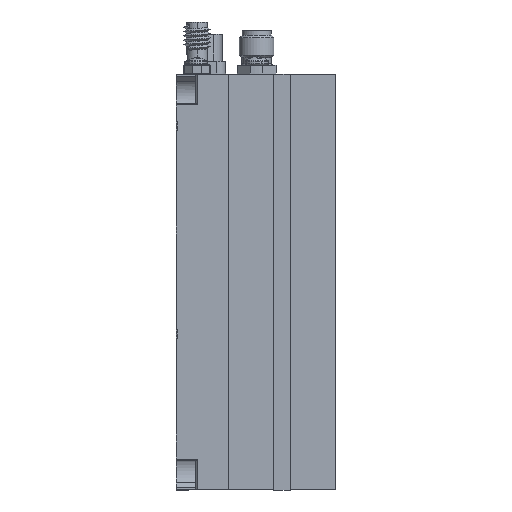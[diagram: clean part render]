
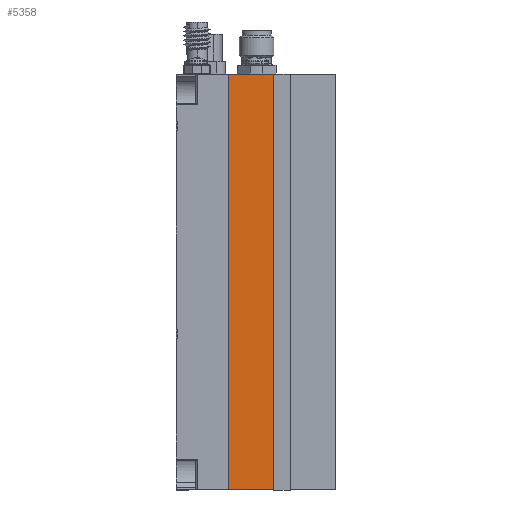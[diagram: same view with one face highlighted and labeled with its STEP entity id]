
A CAD part, left-side view. The second image highlights one B-rep face of the part: STEP entity #5358.
In plain terms, the highlighted planar face has unit normal (-1, 0, 0).
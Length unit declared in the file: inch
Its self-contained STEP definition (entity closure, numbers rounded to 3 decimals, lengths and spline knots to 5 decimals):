
#1246 = EDGE_CURVE ( 'NONE', #7911, #7916, #8816, .T. ) ;
#1249 = EDGE_CURVE ( 'NONE', #7916, #7805, #8826, .T. ) ;
#1268 = EDGE_CURVE ( 'NONE', #8040, #7805, #8857, .T. ) ;
#1272 = EDGE_CURVE ( 'NONE', #7911, #8040, #8862, .T. ) ;
#3343 = EDGE_LOOP ( 'NONE', ( #16556, #16558, #16562, #16561 ) ) ;
#5358 = ADVANCED_FACE ( 'NONE', ( #14880 ), #14148, .F. ) ;
#7805 = VERTEX_POINT ( 'NONE', #23440 ) ;
#7911 = VERTEX_POINT ( 'NONE', #24753 ) ;
#7916 = VERTEX_POINT ( 'NONE', #24758 ) ;
#8040 = VERTEX_POINT ( 'NONE', #24882 ) ;
#8816 = LINE ( 'NONE', #10047, #8823 ) ;
#8823 = VECTOR ( 'NONE', #10059, 39.37008 ) ;
#8826 = LINE ( 'NONE', #10060, #8828 ) ;
#8828 = VECTOR ( 'NONE', #10057, 39.37008 ) ;
#8857 = LINE ( 'NONE', #10107, #8860 ) ;
#8860 = VECTOR ( 'NONE', #10108, 39.37008 ) ;
#8862 = LINE ( 'NONE', #10117, #8863 ) ;
#8863 = VECTOR ( 'NONE', #10123, 39.37008 ) ;
#10047 = CARTESIAN_POINT ( 'NONE',  ( -1., 0.7756, -3. ) ) ;
#10057 = DIRECTION ( 'NONE',  ( 0., -1., 0. ) ) ;
#10059 = DIRECTION ( 'NONE',  ( 0., 0., 1. ) ) ;
#10060 = CARTESIAN_POINT ( 'NONE',  ( -1., 0.7756, 0. ) ) ;
#10107 = CARTESIAN_POINT ( 'NONE',  ( -1., 0.4486, -3. ) ) ;
#10108 = DIRECTION ( 'NONE',  ( 0., 0., 1. ) ) ;
#10117 = CARTESIAN_POINT ( 'NONE',  ( -1., 0.7756, -3. ) ) ;
#10123 = DIRECTION ( 'NONE',  ( 0., -1., 0. ) ) ;
#13739 = AXIS2_PLACEMENT_3D ( 'NONE', #14145, #14150, #14151 ) ;
#14145 = CARTESIAN_POINT ( 'NONE',  ( -1., 0.7756, -3. ) ) ;
#14148 = PLANE ( 'NONE',  #13739 ) ;
#14150 = DIRECTION ( 'NONE',  ( 1., 0., 0. ) ) ;
#14151 = DIRECTION ( 'NONE',  ( 0., 0., -1. ) ) ;
#14880 = FACE_OUTER_BOUND ( 'NONE', #3343, .T. ) ;
#16556 = ORIENTED_EDGE ( 'NONE', *, *, #1268, .T. ) ;
#16558 = ORIENTED_EDGE ( 'NONE', *, *, #1249, .F. ) ;
#16561 = ORIENTED_EDGE ( 'NONE', *, *, #1272, .T. ) ;
#16562 = ORIENTED_EDGE ( 'NONE', *, *, #1246, .F. ) ;
#23440 = CARTESIAN_POINT ( 'NONE',  ( -1., 0.4486, 0. ) ) ;
#24753 = CARTESIAN_POINT ( 'NONE',  ( -1., 0.7756, -3. ) ) ;
#24758 = CARTESIAN_POINT ( 'NONE',  ( -1., 0.7756, 0. ) ) ;
#24882 = CARTESIAN_POINT ( 'NONE',  ( -1., 0.4486, -3. ) ) ;
